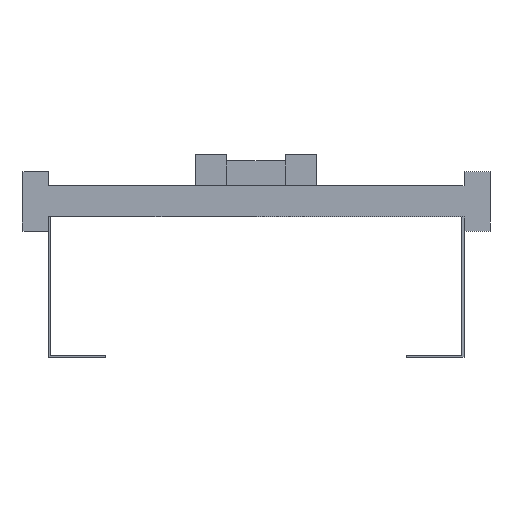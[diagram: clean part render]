
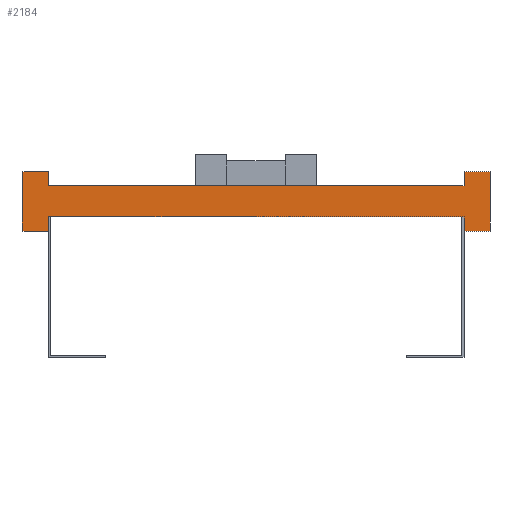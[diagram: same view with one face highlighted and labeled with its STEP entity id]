
A CAD part, front view. The second image highlights one B-rep face of the part: STEP entity #2184.
In plain terms, the highlighted planar face has unit normal (0, -1, 0).
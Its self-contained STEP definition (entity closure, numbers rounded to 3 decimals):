
#1=DIRECTION('',(0.,0.,1.));
#2=VECTOR('',#1,13.5);
#3=CARTESIAN_POINT('',(200.,0.,-28.5));
#4=LINE('',#3,#2);
#5=DIRECTION('',(0.,0.,-1.));
#6=VECTOR('',#5,13.5);
#7=CARTESIAN_POINT('',(-200.,0.,-15.));
#8=LINE('',#7,#6);
#9=DIRECTION('',(-1.,0.,0.));
#10=VECTOR('',#9,25.);
#11=CARTESIAN_POINT('',(-200.,0.,-28.5));
#12=LINE('',#11,#10);
#13=DIRECTION('',(0.,0.,1.));
#14=VECTOR('',#13,57.);
#15=CARTESIAN_POINT('',(-225.,0.,-28.5));
#16=LINE('',#15,#14);
#17=DIRECTION('',(1.,0.,0.));
#18=VECTOR('',#17,25.);
#19=CARTESIAN_POINT('',(-225.,0.,28.5));
#20=LINE('',#19,#18);
#21=DIRECTION('',(0.,0.,-1.));
#22=VECTOR('',#21,13.5);
#23=CARTESIAN_POINT('',(-200.,0.,28.5));
#24=LINE('',#23,#22);
#25=DIRECTION('',(0.,0.,1.));
#26=VECTOR('',#25,13.5);
#27=CARTESIAN_POINT('',(200.,0.,15.));
#28=LINE('',#27,#26);
#29=DIRECTION('',(1.,0.,0.));
#30=VECTOR('',#29,25.);
#31=CARTESIAN_POINT('',(200.,0.,28.5));
#32=LINE('',#31,#30);
#33=DIRECTION('',(0.,0.,-1.));
#34=VECTOR('',#33,57.);
#35=CARTESIAN_POINT('',(225.,0.,28.5));
#36=LINE('',#35,#34);
#37=DIRECTION('',(-1.,0.,0.));
#38=VECTOR('',#37,25.);
#39=CARTESIAN_POINT('',(225.,0.,-28.5));
#40=LINE('',#39,#38);
#1625=DIRECTION('',(1.,0.,0.));
#1626=VECTOR('',#1625,400.);
#1627=CARTESIAN_POINT('',(-200.,0.,-15.));
#1628=LINE('',#1627,#1626);
#1637=DIRECTION('',(1.,0.,0.));
#1638=VECTOR('',#1637,400.);
#1639=CARTESIAN_POINT('',(-200.,0.,15.));
#1640=LINE('',#1639,#1638);
#1641=CARTESIAN_POINT('',(-225.,0.,28.5));
#1642=CARTESIAN_POINT('',(-200.,0.,28.5));
#1643=VERTEX_POINT('',#1641);
#1644=VERTEX_POINT('',#1642);
#1645=CARTESIAN_POINT('',(-200.,0.,-28.5));
#1646=CARTESIAN_POINT('',(-225.,0.,-28.5));
#1647=VERTEX_POINT('',#1645);
#1648=VERTEX_POINT('',#1646);
#1649=CARTESIAN_POINT('',(225.,0.,28.5));
#1650=CARTESIAN_POINT('',(225.,0.,-28.5));
#1651=VERTEX_POINT('',#1649);
#1652=VERTEX_POINT('',#1650);
#1653=CARTESIAN_POINT('',(200.,0.,-28.5));
#1654=VERTEX_POINT('',#1653);
#1655=CARTESIAN_POINT('',(200.,0.,28.5));
#1656=VERTEX_POINT('',#1655);
#1673=CARTESIAN_POINT('',(-200.,0.,-15.));
#1675=VERTEX_POINT('',#1673);
#1677=CARTESIAN_POINT('',(-200.,0.,15.));
#1679=VERTEX_POINT('',#1677);
#1681=CARTESIAN_POINT('',(200.,0.,-15.));
#1683=VERTEX_POINT('',#1681);
#1685=CARTESIAN_POINT('',(200.,0.,15.));
#1687=VERTEX_POINT('',#1685);
#2153=CARTESIAN_POINT('',(0.,0.,0.));
#2154=DIRECTION('',(0.,1.,0.));
#2155=DIRECTION('',(1.,0.,0.));
#2156=AXIS2_PLACEMENT_3D('',#2153,#2154,#2155);
#2157=PLANE('',#2156);
#2159=ORIENTED_EDGE('',*,*,#2158,.T.);
#2161=ORIENTED_EDGE('',*,*,#2160,.F.);
#2163=ORIENTED_EDGE('',*,*,#2162,.T.);
#2165=ORIENTED_EDGE('',*,*,#2164,.T.);
#2167=ORIENTED_EDGE('',*,*,#2166,.T.);
#2169=ORIENTED_EDGE('',*,*,#2168,.T.);
#2171=ORIENTED_EDGE('',*,*,#2170,.T.);
#2173=ORIENTED_EDGE('',*,*,#2172,.T.);
#2175=ORIENTED_EDGE('',*,*,#2174,.T.);
#2177=ORIENTED_EDGE('',*,*,#2176,.T.);
#2179=ORIENTED_EDGE('',*,*,#2178,.T.);
#2181=ORIENTED_EDGE('',*,*,#2180,.T.);
#2182=EDGE_LOOP('',(#2159,#2161,#2163,#2165,#2167,#2169,#2171,#2173,#2175,#2177,
#2179,#2181));
#2183=FACE_OUTER_BOUND('',#2182,.F.);
#2184=ADVANCED_FACE('',(#2183),#2157,.F.);
#2158=EDGE_CURVE('',#1654,#1683,#4,.T.);
#2160=EDGE_CURVE('',#1675,#1683,#1628,.T.);
#2162=EDGE_CURVE('',#1675,#1647,#8,.T.);
#2164=EDGE_CURVE('',#1647,#1648,#12,.T.);
#2166=EDGE_CURVE('',#1648,#1643,#16,.T.);
#2168=EDGE_CURVE('',#1643,#1644,#20,.T.);
#2170=EDGE_CURVE('',#1644,#1679,#24,.T.);
#2172=EDGE_CURVE('',#1679,#1687,#1640,.T.);
#2174=EDGE_CURVE('',#1687,#1656,#28,.T.);
#2176=EDGE_CURVE('',#1656,#1651,#32,.T.);
#2178=EDGE_CURVE('',#1651,#1652,#36,.T.);
#2180=EDGE_CURVE('',#1652,#1654,#40,.T.);
